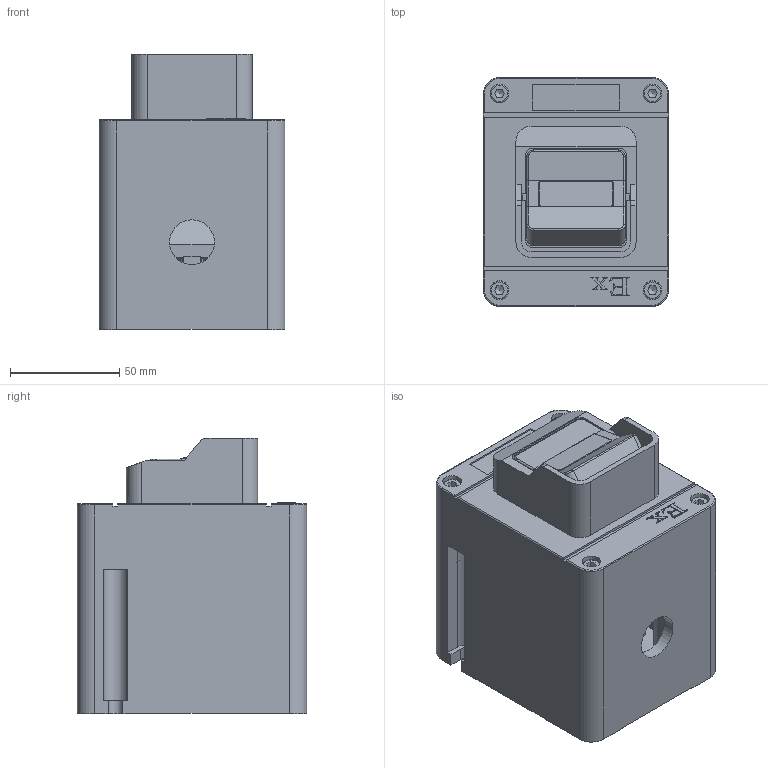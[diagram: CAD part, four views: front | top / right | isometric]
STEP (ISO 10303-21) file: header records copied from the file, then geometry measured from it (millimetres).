
FILE_DESCRIPTION((''),'2;1');
FILE_NAME('\\192.168.5.25\cortem_klient\INVENTOR БАЗА МОДЕЛЕЙ\Актуальная база моделей для отдела продаж\ПКИЕ-ПКЛ\ПКИЕ-ПКЛ.stp','2019-11-29T08:57:16',('K.S.Bezzubikov'),(''),'Autodesk Inventor 2012','Autodesk Inventor 2012','');
FILE_SCHEMA(('AUTOMOTIVE_DESIGN { 1 0 10303 214 1 1 1 1 }'));
Length unit declared in the file: millimetre
Products named in the file (1): ПКИЕ-П100809-ПКЛ1З-1отв1(Б)-1отв1(Г)_Внешний контур_1
Bounding box: 85 x 105 x 126 mm (x, y, z)
Volume: 444202.8 mm3; surface area: 142139.7 mm2
Topology: 1 solids, 7 shells, 1297 faces, 3510 edges, 2311 vertices
Faces by surface type: plane 822, cylinder 288, bspline 158, torus 18, cone 11
Full cylindrical faces by diameter (mm): 4 x2, 5 x16, 5.9 x8, 8.5 x4, 8.6 x4, 8.7 x4, 9 x2, 18.5 x1, 20 x1, 20.5 x2, 23.8 x1, 24.5 x1, 24.9 x1, 25.974 x1, 30 x1, 38.1 x1, 39.5 x1
Entity records: 41758 total; most frequent: CARTESIAN_POINT 9055, ORIENTED_EDGE 6834, DIRECTION 6009, EDGE_CURVE 3417, VECTOR 2433, LINE 2433, VERTEX_POINT 2288, AXIS2_PLACEMENT_3D 1788
